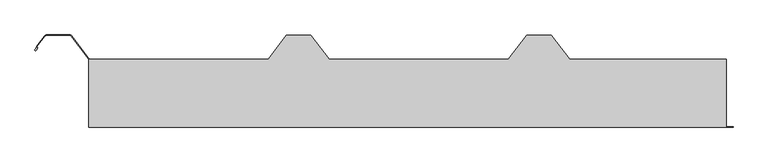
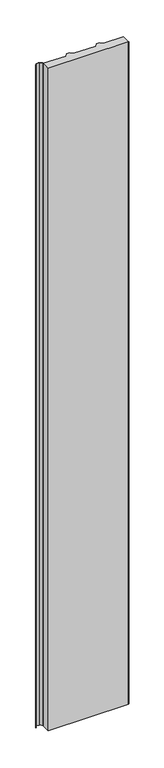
"""IFC4 building model written with IfcOpenShell, lengths in millimetres: plate geometry, Europanels_PolDeck MD T_Vt : PolDeck MD T 100/135."""

import ifcopenshell
import ifcopenshell.guid

model = None  # the IFC model being written
_history = None  # IfcOwnerHistory: only IFC2X3 demands one
_inside = {}  # id of a spatial element -> (the spatial element, [elements in it])
_under = {}  # id of a project, library or spatial element -> (it, [spatial elements below it])
_declared = {}  # id of a project -> (the project, [libraries it declares])
_typed = {}  # id of a type object -> (the type object, [elements of that type])
_made_of = {}  # id of a material, layer set ... -> (it, [elements and type objects made of it])


def new_model(schema):
    """Start an empty IFC model of exactly this schema.

    Asked for "IFC4X3", IfcOpenShell would pick the latest addendum, in which some entities
    have other attributes; the version numbers below select the first issue.
    IFC2X3 requires an IfcOwnerHistory on every rooted entity: one is made here for all.
    """
    global model, _history
    if schema == "IFC4X3":
        model = ifcopenshell.file(schema_version=(4, 3, 0, 0))
    else:
        model = ifcopenshell.file(schema=schema)
    _inside.clear()
    _under.clear()
    _declared.clear()
    _typed.clear()
    _made_of.clear()
    _history = None
    if model.schema == "IFC2X3":
        org = make("IfcOrganization", Name="unknown")
        user = make(
            "IfcPersonAndOrganization",
            ThePerson=make("IfcPerson", FamilyName="unknown"),
            TheOrganization=org,
        )
        app = make(
            "IfcApplication",
            ApplicationDeveloper=org,
            Version="unknown",
            ApplicationFullName="unknown",
            ApplicationIdentifier="unknown",
        )
        _history = make(
            "IfcOwnerHistory",
            OwningUser=user,
            OwningApplication=app,
            ChangeAction="ADDED",
            CreationDate=0,
        )
    return model


def make(cls, **values):
    """One entity of the class cls with the attributes given. An attribute that is None is left unset."""
    return model.create_entity(
        cls, **{name: value for name, value in values.items() if value is not None}
    )


def rooted(cls, **values):
    """An entity with a GlobalId (a new one), such as an element, a storey or a relation."""
    return make(cls, GlobalId=ifcopenshell.guid.new(), OwnerHistory=_history, **values)


def si_unit(unit_type, name, prefix=None):
    """IfcSIUnit, for example si_unit("LENGTHUNIT", "METRE", prefix="MILLI")."""
    return make("IfcSIUnit", UnitType=unit_type, Prefix=prefix, Name=name)


def assignment(units):
    """IfcUnitAssignment: the units of a project."""
    return None if units is None else make("IfcUnitAssignment", Units=units)


def point(xyz):
    """IfcCartesianPoint."""
    return None if xyz is None else make("IfcCartesianPoint", Coordinates=xyz)


def direction(xyz):
    """IfcDirection."""
    return None if xyz is None else make("IfcDirection", DirectionRatios=xyz)


def frame(location, z_axis=None, x_axis=None):
    """IfcAxis2Placement3D, a coordinate frame: its origin and axes. An axis left out is left unset."""
    return make(
        "IfcAxis2Placement3D",
        Location=point(location),
        Axis=direction(z_axis),
        RefDirection=direction(x_axis),
    )


def frame_2d(location, x_axis=None):
    """IfcAxis2Placement2D, a coordinate frame in the plane: its origin and x axis."""
    return make(
        "IfcAxis2Placement2D", Location=point(location), RefDirection=direction(x_axis)
    )


def origin():
    """The frame at (0, 0, 0) with its axes left unset."""
    return frame((0.0, 0.0, 0.0))


def origin_with_axes():
    """The frame at (0, 0, 0) with the z axis (0, 0, 1) and the x axis (1, 0, 0) written out."""
    return frame((0.0, 0.0, 0.0), z_axis=(0.0, 0.0, 1.0), x_axis=(1.0, 0.0, 0.0))


def place(relative_to, where):
    """IfcLocalPlacement: puts the frame where relative to a parent placement (None: the world)."""
    return make(
        "IfcLocalPlacement", PlacementRelTo=relative_to, RelativePlacement=where
    )


def context(
    kind, dimensions, precision=None, world=None, true_north=None, identifier=None
):
    """IfcGeometricRepresentationContext, for example the 3D "Model" context."""
    return make(
        "IfcGeometricRepresentationContext",
        ContextIdentifier=identifier,
        ContextType=kind,
        CoordinateSpaceDimension=dimensions,
        Precision=precision,
        WorldCoordinateSystem=world,
        TrueNorth=true_north,
    )


def project(units=None, contexts=None):
    """IfcProject with its units and contexts."""
    return rooted(
        "IfcProject",
        Name="project",
        RepresentationContexts=contexts,
        UnitsInContext=assignment(units),
    )


def spatial(cls, under=None, at=None, **own):
    """A site, building, storey or space (cls), placed at a placement, below another one or the project."""
    s = rooted(cls, ObjectPlacement=at, **own)
    if under is not None:
        _under.setdefault(under.id(), (under, []))[1].append(s)
    return s


def polyline(points):
    """IfcPolyline through the points."""
    return make("IfcPolyline", Points=[point(p) for p in points])


def circle_curve(where, radius):
    """IfcCircle in the frame where."""
    return make("IfcCircle", Position=where, Radius=radius)


def trimmed(basis, trim1, trim2, sense, master):
    """IfcTrimmedCurve: the piece of a basis curve between two trims."""
    return make(
        "IfcTrimmedCurve",
        BasisCurve=basis,
        Trim1=trim1,
        Trim2=trim2,
        SenseAgreement=sense,
        MasterRepresentation=master,
    )


def segment(curve, same_sense, transition):
    """IfcCompositeCurveSegment."""
    return make(
        "IfcCompositeCurveSegment",
        Transition=transition,
        SameSense=same_sense,
        ParentCurve=curve,
    )


def composite_curve(segments, self_intersect=None):
    """IfcCompositeCurve: segments joined end to end."""
    return make("IfcCompositeCurve", Segments=segments, SelfIntersect=self_intersect)


def outline(outer, holes=None, kind="AREA"):
    """IfcArbitraryClosedProfileDef: a profile drawn as a closed curve; with holes, ...WithVoids."""
    if holes is None:
        return make("IfcArbitraryClosedProfileDef", ProfileType=kind, OuterCurve=outer)
    return make(
        "IfcArbitraryProfileDefWithVoids",
        ProfileType=kind,
        OuterCurve=outer,
        InnerCurves=holes,
    )


def extrude(swept, where, along, depth):
    """IfcExtrudedAreaSolid: the profile swept, set in the frame where, extruded along a direction by depth."""
    return make(
        "IfcExtrudedAreaSolid",
        SweptArea=swept,
        Position=where,
        ExtrudedDirection=direction(along),
        Depth=depth,
    )


def faces_of(points, faces, orient=None, outer=None):
    """IfcFace entities. A face is a list of loops; a loop is a list of indices into points, from 0.

    orient and outer hold one flag for each loop. By default every Orientation is true, the
    first loop of a face is its IfcFaceOuterBound and the others are IfcFaceBound.
    """
    made = []
    for i, loops in enumerate(faces):
        bounds = []
        for j, loop in enumerate(loops):
            is_outer = j == 0 if outer is None else outer[i][j]
            bounds.append(
                make(
                    "IfcFaceOuterBound" if is_outer else "IfcFaceBound",
                    Bound=make("IfcPolyLoop", Polygon=[points[k] for k in loop]),
                    Orientation=True if orient is None else orient[i][j],
                )
            )
        made.append(make("IfcFace", Bounds=bounds))
    return made


def faceted_brep(points, faces, orient=None, outer=None, voids=None):
    """IfcFacetedBrep: a solid bounded by flat faces; with voids (closed shells), ...WithVoids."""
    shared = [point(p) for p in points]
    hull = make("IfcClosedShell", CfsFaces=faces_of(shared, faces, orient, outer))
    if voids is None:
        return make("IfcFacetedBrep", Outer=hull)
    return make(
        "IfcFacetedBrepWithVoids",
        Outer=hull,
        Voids=[
            make(cls, CfsFaces=faces_of(shared, fs, o, b)) for cls, fs, o, b in voids
        ],
    )


def shape(context_of_items, identifier, shape_type, items):
    """IfcShapeRepresentation: the items that make up one representation, for example the "Body"."""
    return make(
        "IfcShapeRepresentation",
        ContextOfItems=context_of_items,
        RepresentationIdentifier=identifier,
        RepresentationType=shape_type,
        Items=items,
    )


def source(mapping_origin, context_of_items, identifier, shape_type, items):
    """IfcRepresentationMap: a shape defined once, which mapped items show again and again."""
    return make(
        "IfcRepresentationMap",
        MappingOrigin=mapping_origin,
        MappedRepresentation=shape(context_of_items, identifier, shape_type, items),
    )


def transform(
    local_origin,
    x_axis=None,
    y_axis=None,
    z_axis=None,
    scale=None,
    scale2=None,
    scale3=None,
    uniform=True,
):
    """IfcCartesianTransformationOperator3D, or its non-uniform kind. x_axis, y_axis, z_axis: its Axis1, 2, 3."""
    if uniform:
        return make(
            "IfcCartesianTransformationOperator3D",
            Axis1=direction(x_axis),
            Axis2=direction(y_axis),
            LocalOrigin=point(local_origin),
            Scale=scale,
            Axis3=direction(z_axis),
        )
    return make(
        "IfcCartesianTransformationOperator3DnonUniform",
        Axis1=direction(x_axis),
        Axis2=direction(y_axis),
        LocalOrigin=point(local_origin),
        Scale=scale,
        Axis3=direction(z_axis),
        Scale2=scale2,
        Scale3=scale3,
    )


def mapped(mapping_source, mapping_target):
    """IfcMappedItem: shows the shape of a source again, moved by a transform."""
    return make(
        "IfcMappedItem", MappingSource=mapping_source, MappingTarget=mapping_target
    )


def made_of(thing, what):
    """Note that an element or type object is made of a material, layer set ...; save() writes the relation."""
    if what is not None:
        _made_of.setdefault(what.id(), (what, []))[1].append(thing)
    return thing


def element(
    cls,
    number,
    at=None,
    inside=None,
    cuts=None,
    type_object=None,
    material=None,
    context=None,
    identifier="Body",
    shape_type=None,
    held_by="IfcProductDefinitionShape",
    body=None,
    shapes=None,
    **own,
):
    """One element of the class cls, such as IfcWall. Its Tag is "e" and its number.

    at: its placement. inside: the storey or other place that contains it. cuts: it is an
    opening in that element (IfcRelVoidsElement). A single representation is given by context,
    identifier, shape_type and body (its items); several are given by shapes. held_by: the class
    of the entity that holds the representations. save() writes the other relations.
    """
    e = rooted(cls, Tag="e%d" % number, ObjectPlacement=at, **own)
    if body is not None:
        shapes = [shape(context, identifier, shape_type, body)]
    if shapes is not None:
        e.Representation = make(held_by, Representations=shapes)
    if inside is not None:
        _inside.setdefault(inside.id(), (inside, []))[1].append(e)
    if cuts is not None:
        rooted(
            "IfcRelVoidsElement", RelatingBuildingElement=cuts, RelatedOpeningElement=e
        )
    if type_object is not None:
        _typed.setdefault(type_object.id(), (type_object, []))[1].append(e)
    return made_of(e, material)


def aggregate(whole, parts):
    """IfcRelAggregates: a whole, such as a stair, and the parts it consists of."""
    return rooted("IfcRelAggregates", RelatingObject=whole, RelatedObjects=parts)


def save(model, path):
    """Write the relations noted so far, then the file.

    IfcRelAggregates (storeys below a building ...), IfcRelContainedInSpatialStructure (elements
    in a storey), IfcRelDefinesByType, IfcRelAssociatesMaterial and IfcRelDeclares: one each for
    every whole, place, type object, material and project.
    """
    for whole, parts in _under.values():
        aggregate(whole, parts)
    for where, things in _inside.values():
        rooted(
            "IfcRelContainedInSpatialStructure",
            RelatedElements=things,
            RelatingStructure=where,
        )
    for kind, things in _typed.values():
        rooted("IfcRelDefinesByType", RelatedObjects=things, RelatingType=kind)
    for what, things in _made_of.values():
        rooted("IfcRelAssociatesMaterial", RelatedObjects=things, RelatingMaterial=what)
    for by, libraries in _declared.values():
        rooted("IfcRelDeclares", RelatingContext=by, RelatedDefinitions=libraries)
    model.write(path)


def plate_b68348ad(model_context):
    return source(origin(), model_context, "Body", "SolidModel", [
        faceted_brep([(-423.4593332, -50.0, 8180.0), (513.3805137, -50.0, 8180.0), (513.3805137, 50.0, 8180.0), (283.2028576, 50.0, 8180.0), (256.2363066, 85.0, 8180.0), (220.252704, 85.0, 8180.0), (193.286153, 50.0, 8180.0), (-70.1304757, 50.0, 8180.0), (-97.0970267, 85.0, 8180.0), (-133.0806294, 85.0, 8180.0), (-160.0471803, 50.0, 8180.0), (-423.4593323, 50.0, 8180.0), (513.3805137, -50.0, 0.0), (-423.4593332, -50.0, 0.0), (-423.4593323, 49.9941896, 0.0), (-160.0471803, 50.0, 0.0), (-133.0806294, 85.0, 0.0), (-97.0970267, 85.0, 0.0), (-70.1304757, 50.0, 0.0), (193.286153, 50.0, 0.0), (220.252704, 85.0, 0.0), (256.2363066, 85.0, 0.0), (283.2028576, 50.0, 0.0), (513.3805137, 50.0, 0.0)], [[[0, 1, 2, 3, 4, 5, 6, 7, 8, 9, 10, 11]], [[12, 13, 14, 15, 16, 17, 18, 19, 20, 21, 22, 23]], [[1, 0, 13, 12]], [[5, 4, 21, 20]], [[9, 8, 17, 16]], [[1, 12, 23, 2]], [[13, 0, 11, 14]], [[10, 15, 14, 11]], [[15, 10, 9, 16]], [[7, 18, 17, 8]], [[18, 7, 6, 19]], [[19, 6, 5, 20]], [[3, 22, 21, 4]], [[22, 3, 2, 23]]]),
        extrude(outline(polyline([(523.4748049, -50.0), (513.3805137, -50.0), (513.3805137, -49.1691383), (523.4748049, -49.1691383), (523.4748049, -50.0)])), origin_with_axes(), (0.0, 0.0, 1.0), 8180.0),
        extrude(outline(composite_curve([segment(polyline([(-422.7970538, 50.0), (-421.4106962, 50.0), (-421.4106968, 49.1820094), (-423.4246751, 49.1820094), (-423.4246751, 50.0), (-449.0407861, 83.7629129)]), True, "CONTINUOUS"), segment(trimmed(circle_curve(frame_2d((-451.5680321, 81.8)), 3.2), [point((-449.0407861, 83.7629129))], [point((-451.5680321, 85.0))], True, "CARTESIAN"), True, "CONTINUOUS"), segment(polyline([(-451.5680321, 85.0), (-485.5245297, 85.0)]), True, "CONTINUOUS"), segment(trimmed(circle_curve(frame_2d((-485.5245297, 81.7999402)), 3.2000598), [point((-485.5245297, 85.0))], [point((-488.0571666, 83.7559907))], True, "CARTESIAN"), True, "CONTINUOUS"), segment(polyline([(-488.0571666, 83.7559907), (-498.2514671, 70.5697064), (-500.3216432, 67.1140575), (-498.9114953, 66.4368734), (-500.499298, 63.1304808)]), True, "CONTINUOUS"), segment(trimmed(circle_curve(frame_2d((-501.5810319, 63.6499533)), 1.2), [point((-500.499298, 63.1304808))], [point((-502.6192432, 64.2517151))], False, "CARTESIAN"), True, "CONTINUOUS"), segment(polyline([(-502.6192432, 64.2517151), (-498.6651618, 70.8520798), (-488.4528082, 84.0617156)]), True, "CONTINUOUS"), segment(trimmed(circle_curve(frame_2d((-485.5245297, 81.7999402)), 3.7000598), [point((-488.4528082, 84.0617156))], [point((-485.5245297, 85.5))], False, "CARTESIAN"), True, "CONTINUOUS"), segment(polyline([(-485.5245297, 85.5), (-451.5680321, 85.5)]), True, "CONTINUOUS"), segment(trimmed(circle_curve(frame_2d((-451.5680321, 81.8)), 3.7), [point((-451.5680321, 85.5))], [point((-448.6441055, 84.0673008))], False, "CARTESIAN"), True, "CONTINUOUS"), segment(polyline([(-448.6441055, 84.0673008), (-422.7970538, 50.0)]), True, "CONTINUOUS")], self_intersect=False)), origin_with_axes(), (0.0, 0.0, 1.0), 8180.0),
    ])


if __name__ == "__main__":
    model = new_model("IFC4")
    model_context = context("Model", 3, world=origin())
    ifc_project = project(units=[si_unit("LENGTHUNIT", "METRE", prefix="MILLI")], contexts=[model_context])
    site = spatial("IfcSite", under=ifc_project)
    building = spatial("IfcBuilding", under=site)
    placement = place(None, origin())
    plate_shape = plate_b68348ad(model_context)
    element("IfcPlate", 1, ObjectType="Europanels_PolDeck MD T_Vt : PolDeck MD T 100/135", at=placement, inside=building, context=model_context, shape_type="MappedRepresentation", body=[
        mapped(plate_shape, transform((0.0, 0.0, 0.0), x_axis=(1.0, 0.0, 0.0), y_axis=(0.0, 1.0, 0.0), z_axis=(0.0, 0.0, 1.0))),
    ])
    save(model, "model.ifc")
